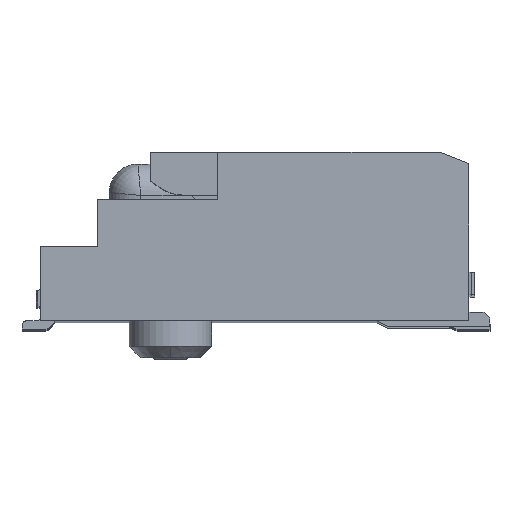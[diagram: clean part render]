
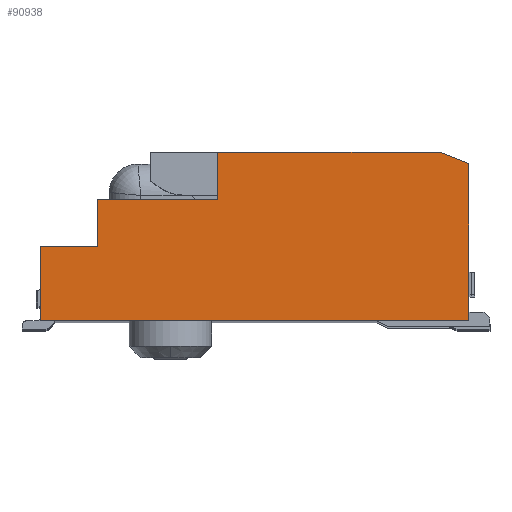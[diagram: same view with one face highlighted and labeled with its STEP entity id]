
A CAD part, top view. The second image highlights one B-rep face of the part: STEP entity #90938.
In plain terms, the highlighted planar face has unit normal (0, 0, 1).
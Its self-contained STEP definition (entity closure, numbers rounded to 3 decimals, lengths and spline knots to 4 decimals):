
#13247=DIRECTION('',(0.,-1.,0.));
#13248=VECTOR('',#13247,1.3);
#13249=CARTESIAN_POINT('',(-21.5805,7.3069,10.9));
#13250=LINE('',#13249,#13248);
#13351=DIRECTION('',(1.,0.,0.));
#13352=VECTOR('',#13351,7.5);
#13353=CARTESIAN_POINT('',(-21.5805,6.0069,10.9));
#13354=LINE('',#13353,#13352);
#15072=DIRECTION('',(-1.,0.,0.));
#15073=VECTOR('',#15072,2.095);
#15074=CARTESIAN_POINT('',(-18.4855,8.1269,10.9));
#15075=LINE('',#15074,#15073);
#15080=DIRECTION('',(0.,-1.,0.));
#15081=VECTOR('',#15080,0.83);
#15082=CARTESIAN_POINT('',(-18.4855,8.9569,10.9));
#15083=LINE('',#15082,#15081);
#15120=DIRECTION('',(1.,0.,0.));
#15121=VECTOR('',#15120,3.905);
#15122=CARTESIAN_POINT('',(-18.4855,8.9569,10.9));
#15123=LINE('',#15122,#15121);
#15124=DIRECTION('',(0.928,-0.371,0.));
#15125=VECTOR('',#15124,0.5385);
#15126=CARTESIAN_POINT('',(-14.5805,8.9569,10.9));
#15127=LINE('',#15126,#15125);
#15128=DIRECTION('',(0.,-1.,0.));
#15129=VECTOR('',#15128,2.75);
#15130=CARTESIAN_POINT('',(-14.0805,8.7569,10.9));
#15131=LINE('',#15130,#15129);
#15140=DIRECTION('',(-1.,0.,0.));
#15141=VECTOR('',#15140,1.);
#15142=CARTESIAN_POINT('',(-20.5805,7.3069,10.9));
#15143=LINE('',#15142,#15141);
#15148=DIRECTION('',(0.,-1.,0.));
#15149=VECTOR('',#15148,0.82);
#15150=CARTESIAN_POINT('',(-20.5805,8.1269,10.9));
#15151=LINE('',#15150,#15149);
#60371=CARTESIAN_POINT('',(-21.5805,7.3069,10.9));
#60372=VERTEX_POINT('',#60371);
#60373=CARTESIAN_POINT('',(-21.5805,6.0069,10.9));
#60374=VERTEX_POINT('',#60373);
#60435=CARTESIAN_POINT('',(-14.0805,6.0069,10.9));
#60436=VERTEX_POINT('',#60435);
#61709=CARTESIAN_POINT('',(-14.0805,8.7569,10.9));
#61710=VERTEX_POINT('',#61709);
#61907=CARTESIAN_POINT('',(-18.4855,8.1269,10.9));
#61908=VERTEX_POINT('',#61907);
#61909=CARTESIAN_POINT('',(-20.5805,8.1269,10.9));
#61910=VERTEX_POINT('',#61909);
#61911=CARTESIAN_POINT('',(-18.4855,8.9569,10.9));
#61913=VERTEX_POINT('',#61911);
#61915=CARTESIAN_POINT('',(-14.5805,8.9569,10.9));
#61917=VERTEX_POINT('',#61915);
#61919=CARTESIAN_POINT('',(-20.5805,7.3069,10.9));
#61920=VERTEX_POINT('',#61919);
#90920=CARTESIAN_POINT('',(-21.5805,6.0069,10.9));
#90921=DIRECTION('',(0.,0.,-1.));
#90922=DIRECTION('',(1.,0.,0.));
#90923=AXIS2_PLACEMENT_3D('',#90920,#90921,#90922);
#90924=PLANE('',#90923);
#90925=ORIENTED_EDGE('',*,*,#88370,.F.);
#90926=ORIENTED_EDGE('',*,*,#88215,.F.);
#90928=ORIENTED_EDGE('',*,*,#90927,.F.);
#90930=ORIENTED_EDGE('',*,*,#90929,.F.);
#90931=ORIENTED_EDGE('',*,*,#90862,.F.);
#90932=ORIENTED_EDGE('',*,*,#90876,.F.);
#90933=ORIENTED_EDGE('',*,*,#90893,.T.);
#90934=ORIENTED_EDGE('',*,*,#90911,.T.);
#90935=ORIENTED_EDGE('',*,*,#90016,.T.);
#90936=EDGE_LOOP('',(#90925,#90926,#90928,#90930,#90931,#90932,#90933,#90934,
#90935));
#90937=FACE_OUTER_BOUND('',#90936,.F.);
#90938=ADVANCED_FACE('',(#90937),#90924,.F.);
#88215=EDGE_CURVE('',#60372,#60374,#13250,.T.);
#88370=EDGE_CURVE('',#60374,#60436,#13354,.T.);
#90016=EDGE_CURVE('',#61710,#60436,#15131,.T.);
#90862=EDGE_CURVE('',#61908,#61910,#15075,.T.);
#90876=EDGE_CURVE('',#61913,#61908,#15083,.T.);
#90893=EDGE_CURVE('',#61913,#61917,#15123,.T.);
#90911=EDGE_CURVE('',#61917,#61710,#15127,.T.);
#90927=EDGE_CURVE('',#61920,#60372,#15143,.T.);
#90929=EDGE_CURVE('',#61910,#61920,#15151,.T.);
